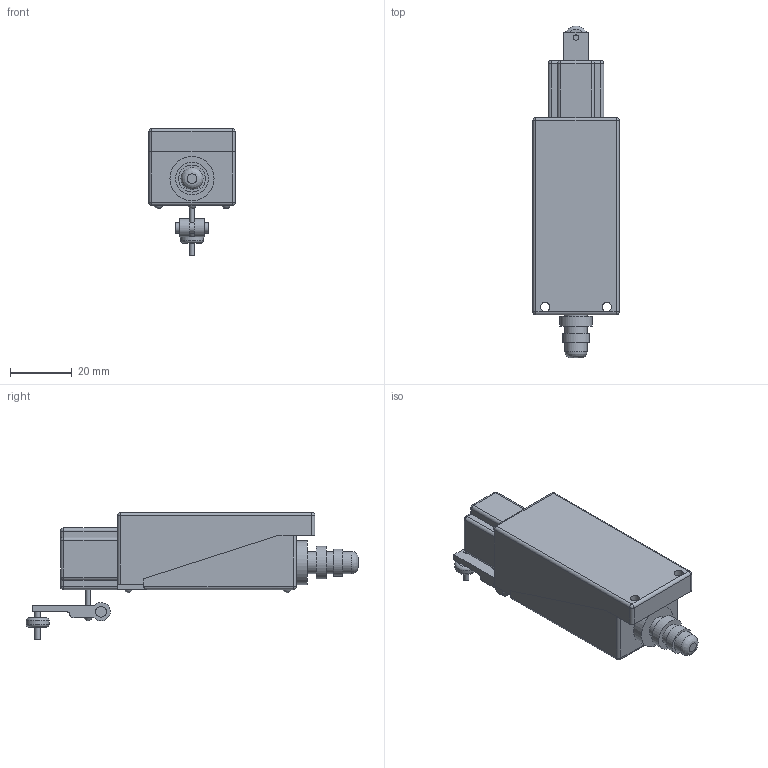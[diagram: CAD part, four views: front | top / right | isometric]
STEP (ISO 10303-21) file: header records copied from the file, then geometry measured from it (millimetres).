
FILE_DESCRIPTION(/* description */ (''),/* implementation_level */ '2;1');
FILE_NAME(/* name */ 'D:\CHINT3\YBLX-ME_8104.stp',/* time_stamp */ '2017-12-11T20:18:33+03:00',/* author */ ('RSagdiev'),/* organization */ (''),/* preprocessor_version */ 'ST-DEVELOPER v16.5',/* originating_system */ 'Autodesk Inventor 2017',/* authorisation */ '');
FILE_SCHEMA (('AUTOMOTIVE_DESIGN { 1 0 10303 214 3 1 1 }'));
Length unit declared in the file: millimetre
Products named in the file (1): YBLX-ME_8104
Bounding box: 28 x 107.72 x 41.2 mm (x, y, z)
Volume: 49447.1 mm3; surface area: 15291.9 mm2
Topology: 12 solids, 12 shells, 152 faces, 318 edges, 195 vertices
Faces by surface type: plane 67, cylinder 64, sphere 17, bspline 2, torus 2
Full cylindrical faces by diameter (mm): 1.5 x1, 1.767 x3, 3 x10, 3.5 x3, 7.163 x3, 7.5 x1, 8.723 x1, 10.59 x1, 14.326 x1
Entity records: 3924 total; most frequent: DIRECTION 710, CARTESIAN_POINT 677, ORIENTED_EDGE 562, EDGE_CURVE 281, AXIS2_PLACEMENT_3D 280, EDGE_LOOP 200, VERTEX_POINT 187, FACE_OUTER_BOUND 152
